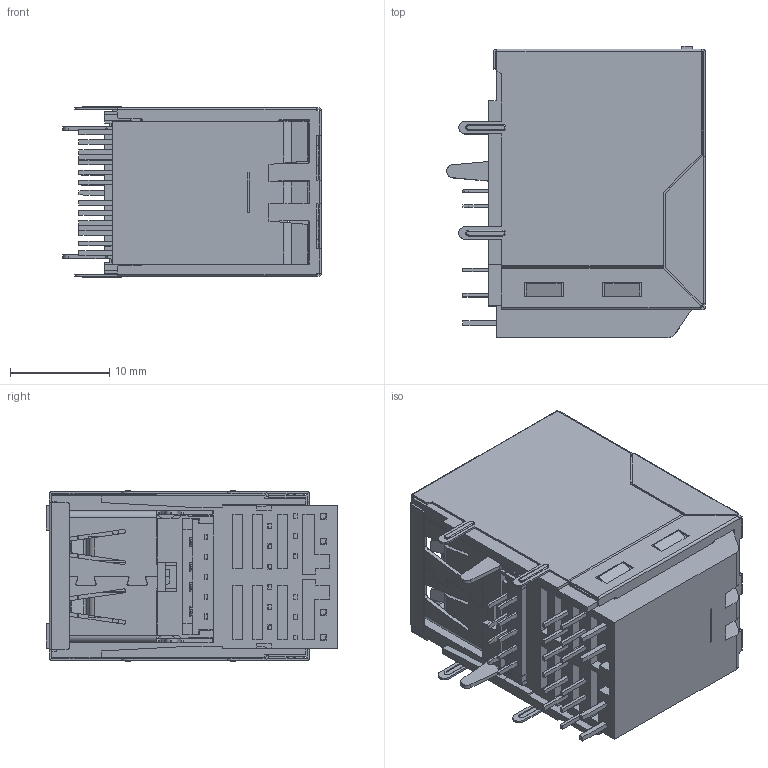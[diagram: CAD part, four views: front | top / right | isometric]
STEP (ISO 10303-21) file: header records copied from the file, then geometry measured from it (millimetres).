
FILE_DESCRIPTION((''),'2;1');
FILE_NAME('DGKYD611U3Q008AB2WD','2024-06-26T18:44:42',('DGKYD'),(''),'CREO PARAMETRIC BY PTC INC, 2019010','CREO PARAMETRIC BY PTC INC, 2019010','');
FILE_SCHEMA(('CONFIG_CONTROL_DESIGN'));
Products named in the file (1): DGKYD611U3Q008AB2WD
Bounding box: 26 x 29.3 x 17.15 mm (x, y, z)
Volume: 5512.7 mm3; surface area: 14812.8 mm2
Topology: 1 solids, 4 shells, 3456 faces, 10118 edges, 6610 vertices
Faces by surface type: plane 2765, cylinder 671, torus 14, bspline 6
Entity records: 114196 total; most frequent: CARTESIAN_POINT 21082, ORIENTED_EDGE 20236, DIRECTION 18123, EDGE_CURVE 10118, VECTOR 8643, LINE 8643, VERTEX_POINT 6610, AXIS2_PLACEMENT_3D 4740
